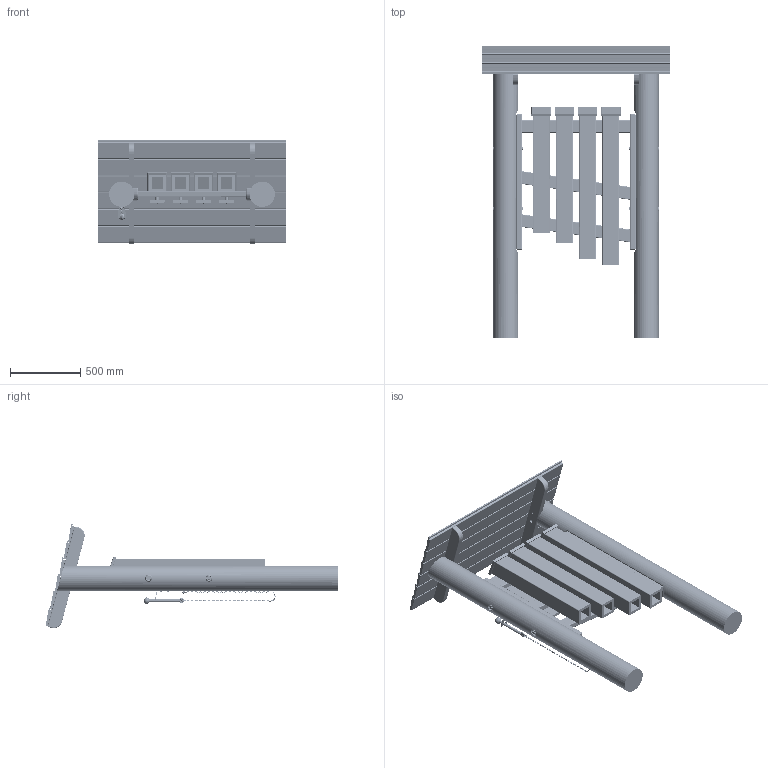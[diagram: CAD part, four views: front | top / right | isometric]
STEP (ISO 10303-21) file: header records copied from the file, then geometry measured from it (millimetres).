
FILE_DESCRIPTION (( 'STEP AP203' ), '1' );
FILE_NAME ('任 1207_Rev_02.STEP', '2024-10-10T12:11:25', ( '' ), ( '' ), 'SwSTEP 2.0', 'SolidWorks 2023', '' );
FILE_SCHEMA (( 'CONFIG_CONTROL_DESIGN' ));
Length unit declared in the file: millimetre
Products named in the file (75): ИО 1207.03.001_00; ИО 1207.04.001_00; ИО 1207_Rev_02; ИО 1207.00.002_00; ВС06.075.Д7380 А2_00; ИО 1207.02.1 КД; НКС.013; СВ 20.001_00; ИО 1207.05.001_00; ИО 1207.01.000 КД; ГВ06.Д1624 А2_00; НДМ.017; НДМ.029.01_00; ИО 1207.00.001_00; ШТ06.070.А9250 А2_00; НДМ.004; ИО 1207.03.000 КД; ИО 1207.00.003_00; НДМ.030; НДМ.025-02; ШУ10.100.A8974_Стандартная; НКМ.040.65; ИО 1207.06.001_00; ШП04.040.А9047 А2_00; НКС.013.001_00; ВЦ08.050.Д912.А2_00; ИО 1207.00.С02_00; СТ06.А8482 А2_00; НДМ.025-01; ИО 1207.00.С1.1; НДМ.025.1; ИО 1207.04.000 КД; П046; ИО 1207.02.000 КД; ИО 1207.01.003_00; ИО 1207.05.000 КД; ШП05.050.А9043 А2_00; ИО 1207.00.004_00; SV 1.6 _180; ИО 1207.01.004_00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
Assembly tree (158 placements, depth 5):
  ИО 1207_Rev_02
    ИО 1207.00.С02_00
    ИО 1207.01.1 КМД
      ИО 1207.01.000 КД
        ИО 1207.01.001_00
        ИО 1207.01.002_00
        ИО 1207.01.005_00
        ИО 1207.01.003_00
        ИО 1207.01.004_00
        ИО 1207.03.000 КД
          ИО 1207.03.001_00
          ИО 1207.03.001_00
          ИО 1207.03.001_00
          ИО 1207.03.001_00
          ИО 1207.03.002_00
        ИО 1207.04.000 КД
          ИО 1207.04.001_00
          ИО 1207.04.001_00
          ИО 1207.04.001_00
          ИО 1207.04.001_00
          ИО 1207.04.002_00
        ИО 1207.05.000 КД
          ИО 1207.05.001_00
          ИО 1207.05.001_00
          ИО 1207.05.001_00
          ИО 1207.05.001_00
          ИО 1207.05.002_00
        ИО 1207.06.000 КД
          ИО 1207.06.001_00
          ИО 1207.06.001_00
          ИО 1207.06.001_00
          ИО 1207.06.001_00
          ИО 1207.03.002_00
        ИО 1207.00.001_00
        ИО 1207.00.002_00
        ИО 1207.00.003_00
        ИО 1207.00.004_00
        ШП05.070.А9043 А2_00  x36
        СВ 20  x8
          СВ 20.001_00
          ШП06.Д9021 А2_00
          ГВ06.Д1624 А2_00
          ВС06.075.Д7380 А2_00
          ШП08.Д9021 А2_00
          П046
      SV 1.6 _180  x4
        НДМ.029.01_00
        ШП12.Д125 А2_00
        НДМ.030
        БШ12.070.Д933  А2_00
    ИО 1207.02.1 КД
      ИО 1207.02.000 КД
        ИО 1207.02.001_00  x2
        ИО 1207.02.002_00  x6
        ШП05.050.А9043 А2_00  x24
      ШТ08.120.А9250 А2_00  x4
    ИО 1207.00.С1.1
      ИО 1207.00.С01_00
      НДМ.025.1
        НДМ.025-02
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Bounding box: 1340 x 2082.05 x 742.14 mm (x, y, z)
Volume: 176666689.7 mm3; surface area: 11699510 mm2
Topology: 284 solids, 284 shells, 9104 faces, 22875 edges, 14423 vertices
Faces by surface type: cylinder 2707, plane 2552, bspline 2545, torus 796, cone 472, sphere 32
Entity records: 212315 total; most frequent: CARTESIAN_POINT 91953, ORIENTED_EDGE 25308, DIRECTION 18156, EDGE_CURVE 12654, VERTEX_POINT 8036, VECTOR 6508, LINE 6508, AXIS2_PLACEMENT_3D 5824
